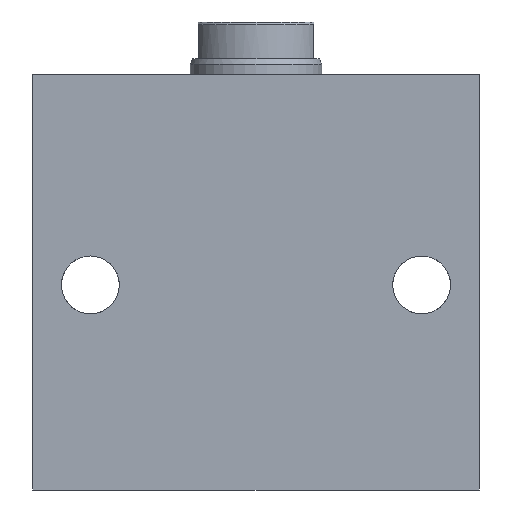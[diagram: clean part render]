
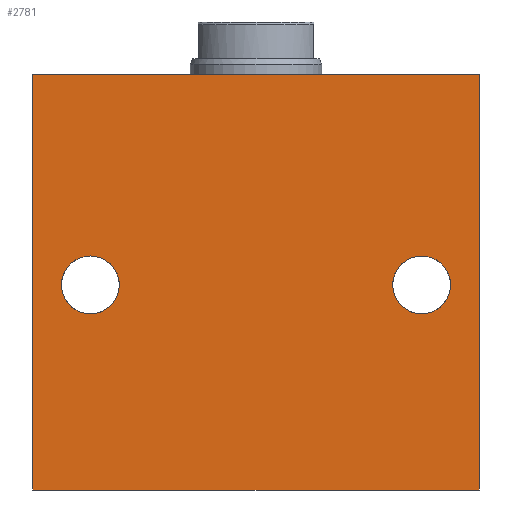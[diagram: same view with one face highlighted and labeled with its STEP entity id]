
A CAD part, front view. The second image highlights one B-rep face of the part: STEP entity #2781.
In plain terms, the highlighted planar face has unit normal (0, -1, 0).
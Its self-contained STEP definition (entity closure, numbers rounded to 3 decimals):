
#11 = AXIS2_PLACEMENT_3D ( 'NONE', #437, #420, #419 ) ;
#24 = AXIS2_PLACEMENT_3D ( 'NONE', #422, #421, #417 ) ;
#27 = AXIS2_PLACEMENT_3D ( 'NONE', #450, #449, #448 ) ;
#29 = AXIS2_PLACEMENT_3D ( 'NONE', #467, #466, #465 ) ;
#133 = VECTOR ( 'NONE', #675, 1000. ) ;
#139 = VECTOR ( 'NONE', #531, 1000. ) ;
#148 = VECTOR ( 'NONE', #547, 1000. ) ;
#164 = CIRCLE ( 'NONE', #29, 5.5 ) ;
#172 = CIRCLE ( 'NONE', #24, 5.5 ) ;
#176 = VECTOR ( 'NONE', #731, 1000. ) ;
#213 = LINE ( 'NONE', #738, #176 ) ;
#226 = CIRCLE ( 'NONE', #27, 5.5 ) ;
#231 = LINE ( 'NONE', #518, #139 ) ;
#283 = LINE ( 'NONE', #535, #148 ) ;
#318 = CIRCLE ( 'NONE', #11, 5.5 ) ;
#350 = LINE ( 'NONE', #669, #133 ) ;
#417 = DIRECTION ( 'NONE',  ( 0., 0., 1. ) ) ;
#419 = DIRECTION ( 'NONE',  ( 0., 0., 1. ) ) ;
#420 = DIRECTION ( 'NONE',  ( 0., 1., 0. ) ) ;
#421 = DIRECTION ( 'NONE',  ( 0., 1., 0. ) ) ;
#422 = CARTESIAN_POINT ( 'NONE',  ( -31.5, -31.5, 39. ) ) ;
#437 = CARTESIAN_POINT ( 'NONE',  ( 31.5, -31.5, 39. ) ) ;
#448 = DIRECTION ( 'NONE',  ( 0., 0., 1. ) ) ;
#449 = DIRECTION ( 'NONE',  ( 0., 1., 0. ) ) ;
#450 = CARTESIAN_POINT ( 'NONE',  ( 31.5, -31.5, 39. ) ) ;
#465 = DIRECTION ( 'NONE',  ( 0., 0., 1. ) ) ;
#466 = DIRECTION ( 'NONE',  ( 0., 1., 0. ) ) ;
#467 = CARTESIAN_POINT ( 'NONE',  ( -31.5, -31.5, 39. ) ) ;
#502 = CARTESIAN_POINT ( 'NONE',  ( 31.5, -31.5, 33.5 ) ) ;
#518 = CARTESIAN_POINT ( 'NONE',  ( -42.5, -31.5, 79. ) ) ;
#521 = CARTESIAN_POINT ( 'NONE',  ( -42.5, -31.5, 0. ) ) ;
#527 = CARTESIAN_POINT ( 'NONE',  ( 42.5, -31.5, 0. ) ) ;
#531 = DIRECTION ( 'NONE',  ( 0., 0., -1. ) ) ;
#535 = CARTESIAN_POINT ( 'NONE',  ( -42.5, -31.5, 79. ) ) ;
#541 = CARTESIAN_POINT ( 'NONE',  ( 42.5, -31.5, 79. ) ) ;
#547 = DIRECTION ( 'NONE',  ( 1., 0., 0. ) ) ;
#579 = CARTESIAN_POINT ( 'NONE',  ( -42.5, -31.5, 79. ) ) ;
#612 = CARTESIAN_POINT ( 'NONE',  ( 31.5, -31.5, 44.5 ) ) ;
#669 = CARTESIAN_POINT ( 'NONE',  ( -42.5, -31.5, 0. ) ) ;
#675 = DIRECTION ( 'NONE',  ( 1., 0., 0. ) ) ;
#682 = CARTESIAN_POINT ( 'NONE',  ( -31.5, -31.5, 44.5 ) ) ;
#731 = DIRECTION ( 'NONE',  ( 0., 0., -1. ) ) ;
#738 = CARTESIAN_POINT ( 'NONE',  ( 42.5, -31.5, 79. ) ) ;
#779 = CARTESIAN_POINT ( 'NONE',  ( -31.5, -31.5, 33.5 ) ) ;
#1051 = DIRECTION ( 'NONE',  ( 0., 0., 1. ) ) ;
#1063 = PLANE ( 'NONE',  #2255 ) ;
#1071 = CARTESIAN_POINT ( 'NONE',  ( -42.5, -31.5, 79. ) ) ;
#1087 = DIRECTION ( 'NONE',  ( 0., 1., 0. ) ) ;
#1204 = EDGE_CURVE ( 'NONE', #1656, #1668, #213, .T. ) ;
#1219 = EDGE_CURVE ( 'NONE', #1662, #1668, #350, .T. ) ;
#1651 = VERTEX_POINT ( 'NONE', #579 ) ;
#1656 = VERTEX_POINT ( 'NONE', #541 ) ;
#1662 = VERTEX_POINT ( 'NONE', #521 ) ;
#1668 = VERTEX_POINT ( 'NONE', #527 ) ;
#1687 = VERTEX_POINT ( 'NONE', #682 ) ;
#1703 = VERTEX_POINT ( 'NONE', #779 ) ;
#1706 = VERTEX_POINT ( 'NONE', #502 ) ;
#1718 = VERTEX_POINT ( 'NONE', #612 ) ;
#1830 = EDGE_LOOP ( 'NONE', ( #2663, #2662 ) ) ;
#1833 = EDGE_LOOP ( 'NONE', ( #2661, #2660 ) ) ;
#1841 = EDGE_LOOP ( 'NONE', ( #2659, #2651, #2652, #2658 ) ) ;
#2102 = EDGE_CURVE ( 'NONE', #1651, #1662, #231, .T. ) ;
#2113 = EDGE_CURVE ( 'NONE', #1687, #1703, #164, .T. ) ;
#2116 = EDGE_CURVE ( 'NONE', #1718, #1706, #226, .T. ) ;
#2122 = EDGE_CURVE ( 'NONE', #1703, #1687, #172, .T. ) ;
#2127 = EDGE_CURVE ( 'NONE', #1651, #1656, #283, .T. ) ;
#2134 = EDGE_CURVE ( 'NONE', #1706, #1718, #318, .T. ) ;
#2255 = AXIS2_PLACEMENT_3D ( 'NONE', #1071, #1087, #1051 ) ;
#2497 = FACE_BOUND ( 'NONE', #1833, .T. ) ;
#2501 = FACE_OUTER_BOUND ( 'NONE', #1841, .T. ) ;
#2502 = FACE_BOUND ( 'NONE', #1830, .T. ) ;
#2651 = ORIENTED_EDGE ( 'NONE', *, *, #1204, .F. ) ;
#2652 = ORIENTED_EDGE ( 'NONE', *, *, #2127, .F. ) ;
#2658 = ORIENTED_EDGE ( 'NONE', *, *, #2102, .T. ) ;
#2659 = ORIENTED_EDGE ( 'NONE', *, *, #1219, .T. ) ;
#2660 = ORIENTED_EDGE ( 'NONE', *, *, #2134, .T. ) ;
#2661 = ORIENTED_EDGE ( 'NONE', *, *, #2116, .T. ) ;
#2662 = ORIENTED_EDGE ( 'NONE', *, *, #2122, .T. ) ;
#2663 = ORIENTED_EDGE ( 'NONE', *, *, #2113, .T. ) ;
#2781 = ADVANCED_FACE ( 'NONE', ( #2502, #2497, #2501 ), #1063, .F. ) ;
